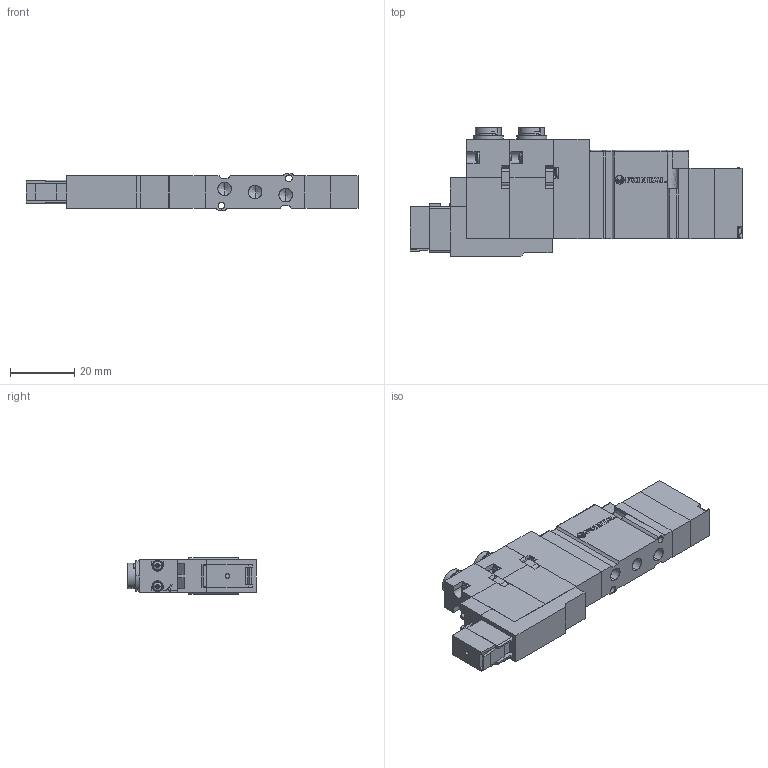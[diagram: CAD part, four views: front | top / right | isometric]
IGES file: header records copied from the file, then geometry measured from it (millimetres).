
Start section: SolidWorks IGES file using analytic representation for surfaces
Global section: file name: C:\Users\Toshiba\Desktop\A05FD35#-#-#-E.IGS; native system: SolidWorks 2014; preprocessor: SolidWorks 2014; author: Toshiba; date: 160125.144731; units: millimetre
Bounding box: 103.3 x 40.1 x 11.4 mm (x, y, z)
Surface area: 16490.2 mm2 (no closed solid volume)
Topology: 0 solids, 0 shells, 906 faces, 7430 edges, 7396 vertices
Faces by surface type: bspline 618, revolution 288
